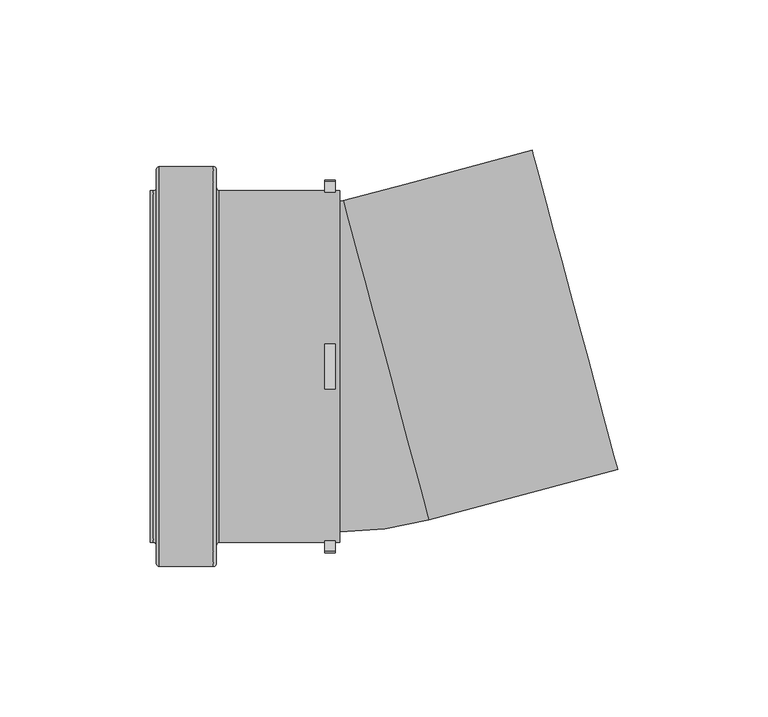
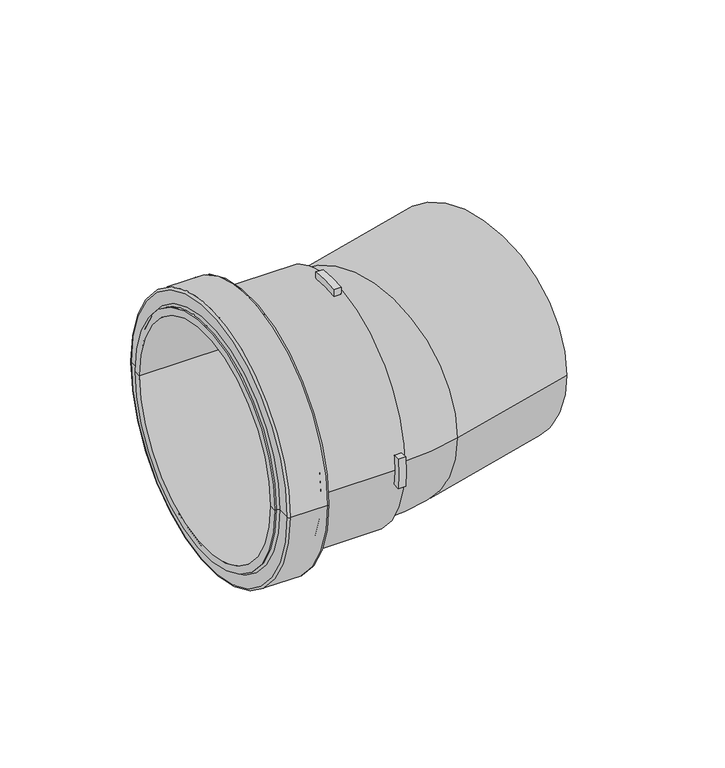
"""IFC4 building model written with IfcOpenShell, lengths in millimetres: pipe fitting geometry, MarleyPlumbingAndDrainage_PipeFitting_dBlue15DegreeBend_VKL : VKL-110-000-15D - 110mm - Blue."""

from ifc_helpers import new_model, si_unit, point, frame, origin, place, context, project, spatial, polyline, circle_curve, ellipse_curve, trimmed, source, transform, mapped, element, save
from ifc_brep_helpers import plane_surface, cylinder_surface, revolved_surface, advanced_brep


def pipe_fitting_c5ec87fd(model_context):
    return source(origin(), model_context, "Body", "AdvancedBrep", [
        advanced_brep(
        [(-64.6001117, 66.5, 0.0), (-64.6001117, -66.5, 0.0), (-63.6001117, -65.5, 0.0), (-63.6001117, 65.5, 0.0), (-82.6001117, 66.5, 0.0), (-82.6001117, -66.5, 0.0), (-83.6001117, 65.5, 0.0), (-83.6001117, -65.5, 0.0), (-83.6001117, 59.5, 0.0), (-83.6001117, -59.5, 0.0), (-84.6001117, 58.5, 0.0), (-84.6001117, -58.5, 0.0), (-85.6001117, 55.0, 0.0), (-85.6001117, -55.0, 0.0), (-85.6001117, -58.5, 0.0), (-85.6001117, 58.5, 0.0), (-22.6001117, 55.0, 0.0), (-22.6001117, -55.0, 0.0), (-22.6001117, 58.5, 0.0), (-22.6001117, -58.5, 0.0), (-24.1001117, 58.5, 0.0), (-24.1001117, 58.0172388, 7.5), (-27.6001117, 58.0172388, 7.5), (-27.6001117, 58.5, 0.0), (-62.6001117, 58.5, 0.0), (-62.6001117, -58.5, 0.0), (-27.6001117, -58.5, 0.0), (-27.6001117, -58.0172388, 7.5), (-24.1001117, -58.0172388, 7.5), (-24.1001117, -58.5, 0.0), (-27.6001117, -7.5, 58.0172388), (-27.6001117, 7.5, 58.0172388), (-24.1001117, 7.5, 58.0172388), (-24.1001117, -7.5, 58.0172388), (-24.1001117, -58.0172388, -7.5), (-27.6001117, -58.0172388, -7.5), (-27.6001117, 58.0172388, -7.5), (-24.1001117, 58.0172388, -7.5), (-27.6001117, 7.5, -58.0172388), (-27.6001117, -7.5, -58.0172388), (-24.1001117, -7.5, -58.0172388), (-24.1001117, 7.5, -58.0172388), (-63.6001117, 59.5, 0.0), (-63.6001117, -59.5, 0.0), (-27.6001117, 61.5446992, 7.5), (-27.6001117, 61.5446992, -7.5), (-27.6001117, -7.5, 61.5446992), (-27.6001117, 7.5, 61.5446992), (-27.6001117, -61.5446992, -7.5), (-27.6001117, -61.5446992, 7.5), (-27.6001117, 7.5, -61.5446992), (-27.6001117, -7.5, -61.5446992), (-24.1001117, 61.5446992, -7.5), (-24.1001117, 61.5446992, 7.5), (-24.1001117, 7.5, 61.5446992), (-24.1001117, -7.5, 61.5446992), (-24.1001117, -61.5446992, 7.5), (-24.1001117, -61.5446992, -7.5), (-24.1001117, -7.5, -61.5446992), (-24.1001117, 7.5, -61.5446992)],
        [
            (0, 1, circle_curve(frame((-64.6001117, 0.0, 0.0), z_axis=(1.0, 0.0, 0.0), x_axis=(0.0, -1.0, 0.0)), 66.5)),
            (1, 2, circle_curve(frame((-64.6001117, -65.5, 0.0), z_axis=(0.0, 0.0, 1.0), x_axis=(0.0, -1.0, 0.0)), 1.0)),
            (2, 3, circle_curve(frame((-63.6001117, 0.0, 0.0), z_axis=(-1.0, 0.0, 0.0), x_axis=(0.0, -1.0, 0.0)), 65.5)),
            (3, 0, circle_curve(frame((-64.6001117, 65.5, 0.0), z_axis=(0.0, 0.0, 1.0), x_axis=(0.0, 1.0, 0.0)), 1.0)),
            (1, 0, circle_curve(frame((-64.6001117, 0.0, 0.0), z_axis=(1.0, 0.0, 0.0), x_axis=(0.0, -1.0, 0.0)), 66.5)),
            (3, 2, circle_curve(frame((-63.6001117, 0.0, 0.0), z_axis=(-1.0, 0.0, 0.0), x_axis=(0.0, -1.0, 0.0)), 65.5)),
            (0, 4),
            (4, 5, circle_curve(frame((-82.6001117, 0.0, 0.0), z_axis=(1.0, 0.0, 0.0), x_axis=(0.0, -1.0, 0.0)), 66.5)),
            (5, 1),
            (5, 4, circle_curve(frame((-82.6001117, 0.0, 0.0), z_axis=(1.0, 0.0, 0.0), x_axis=(0.0, -1.0, 0.0)), 66.5)),
            (4, 6, circle_curve(frame((-82.6001117, 65.5, 0.0), z_axis=(0.0, 0.0, 1.0), x_axis=(0.0, 1.0, 0.0)), 1.0)),
            (6, 7, circle_curve(frame((-83.6001117, 0.0, 0.0), z_axis=(1.0, 0.0, 0.0), x_axis=(0.0, -1.0, 0.0)), 65.5)),
            (7, 5, circle_curve(frame((-82.6001117, -65.5, 0.0), z_axis=(0.0, 0.0, 1.0), x_axis=(0.0, -1.0, 0.0)), 1.0)),
            (7, 6, circle_curve(frame((-83.6001117, 0.0, 0.0), z_axis=(1.0, 0.0, 0.0), x_axis=(0.0, -1.0, 0.0)), 65.5)),
            (6, 8),
            (8, 9, circle_curve(frame((-83.6001117, 0.0, 0.0), z_axis=(1.0, 0.0, 0.0), x_axis=(0.0, -1.0, 0.0)), 59.5)),
            (9, 7),
            (9, 8, circle_curve(frame((-83.6001117, 0.0, 0.0), z_axis=(1.0, 0.0, 0.0), x_axis=(0.0, -1.0, 0.0)), 59.5)),
            (8, 10, circle_curve(frame((-84.6001117, 59.5, 0.0), z_axis=(0.0, 0.0, -1.0), x_axis=(0.0, 1.0, 0.0)), 1.0)),
            (10, 11, circle_curve(frame((-84.6001117, 0.0, 0.0), z_axis=(1.0, 0.0, 0.0), x_axis=(0.0, -1.0, 0.0)), 58.5)),
            (11, 9, circle_curve(frame((-84.6001117, -59.5, 0.0), z_axis=(0.0, 0.0, -1.0), x_axis=(0.0, -1.0, 0.0)), 1.0)),
            (11, 10, circle_curve(frame((-84.6001117, 0.0, 0.0), z_axis=(1.0, 0.0, 0.0), x_axis=(0.0, -1.0, 0.0)), 58.5)),
            (12, 13, circle_curve(frame((-85.6001117, 0.0, 0.0), z_axis=(1.0, 0.0, 0.0), x_axis=(0.0, -1.0, 0.0)), 55.0)),
            (13, 14),
            (14, 15, circle_curve(frame((-85.6001117, 0.0, 0.0), z_axis=(-1.0, 0.0, 0.0), x_axis=(0.0, -1.0, 0.0)), 58.5)),
            (15, 12),
            (13, 12, circle_curve(frame((-85.6001117, 0.0, 0.0), z_axis=(1.0, 0.0, 0.0), x_axis=(0.0, -1.0, 0.0)), 55.0)),
            (15, 14, circle_curve(frame((-85.6001117, 0.0, 0.0), z_axis=(-1.0, 0.0, 0.0), x_axis=(0.0, -1.0, 0.0)), 58.5)),
            (12, 16),
            (16, 17, circle_curve(frame((-22.6001117, 0.0, 0.0), z_axis=(1.0, 0.0, 0.0), x_axis=(0.0, -1.0, 0.0)), 55.0)),
            (17, 13),
            (17, 16, circle_curve(frame((-22.6001117, 0.0, 0.0), z_axis=(1.0, 0.0, 0.0), x_axis=(0.0, -1.0, 0.0)), 55.0)),
            (16, 18),
            (18, 19, circle_curve(frame((-22.6001117, 0.0, 0.0), z_axis=(1.0, 0.0, 0.0), x_axis=(0.0, -1.0, 0.0)), 58.5)),
            (19, 17),
            (19, 18, circle_curve(frame((-22.6001117, 0.0, 0.0), z_axis=(1.0, 0.0, 0.0), x_axis=(0.0, -1.0, 0.0)), 58.5)),
            (18, 20),
            (20, 21, circle_curve(frame((-24.1001117, 0.0, 0.0), z_axis=(1.0, 0.0, 0.0), x_axis=(0.0, -1.0, 0.0)), 58.5)),
            (21, 22),
            (22, 23, circle_curve(frame((-27.6001117, 0.0, 0.0), z_axis=(-1.0, 0.0, 0.0), x_axis=(0.0, -1.0, 0.0)), 58.5)),
            (23, 24),
            (24, 25, circle_curve(frame((-62.6001117, 0.0, 0.0), z_axis=(1.0, 0.0, 0.0), x_axis=(0.0, -1.0, 0.0)), 58.5)),
            (25, 26),
            (26, 27, circle_curve(frame((-27.6001117, 0.0, 0.0), z_axis=(-1.0, 0.0, 0.0), x_axis=(0.0, -1.0, 0.0)), 58.5)),
            (27, 28),
            (28, 29, circle_curve(frame((-24.1001117, 0.0, 0.0), z_axis=(1.0, 0.0, 0.0), x_axis=(0.0, -1.0, 0.0)), 58.5)),
            (29, 19),
            (30, 31, circle_curve(frame((-27.6001117, 0.0, 0.0), z_axis=(-1.0, 0.0, 0.0), x_axis=(0.0, -1.0, 0.0)), 58.5)),
            (31, 32),
            (32, 33, circle_curve(frame((-24.1001117, 0.0, 0.0), z_axis=(1.0, 0.0, 0.0), x_axis=(0.0, -1.0, 0.0)), 58.5)),
            (33, 30),
            (29, 34, circle_curve(frame((-24.1001117, 0.0, 0.0), z_axis=(1.0, 0.0, 0.0), x_axis=(0.0, -1.0, 0.0)), 58.5)),
            (34, 35),
            (35, 26, circle_curve(frame((-27.6001117, 0.0, 0.0), z_axis=(-1.0, 0.0, 0.0), x_axis=(0.0, -1.0, 0.0)), 58.5)),
            (25, 24, circle_curve(frame((-62.6001117, 0.0, 0.0), z_axis=(1.0, 0.0, 0.0), x_axis=(0.0, -1.0, 0.0)), 58.5)),
            (23, 36, circle_curve(frame((-27.6001117, 0.0, 0.0), z_axis=(-1.0, 0.0, 0.0), x_axis=(0.0, -1.0, 0.0)), 58.5)),
            (36, 37),
            (37, 20, circle_curve(frame((-24.1001117, 0.0, 0.0), z_axis=(1.0, 0.0, 0.0), x_axis=(0.0, -1.0, 0.0)), 58.5)),
            (38, 39, circle_curve(frame((-27.6001117, 0.0, 0.0), z_axis=(-1.0, 0.0, 0.0), x_axis=(0.0, -1.0, 0.0)), 58.5)),
            (39, 40),
            (40, 41, circle_curve(frame((-24.1001117, 0.0, 0.0), z_axis=(1.0, 0.0, 0.0), x_axis=(0.0, -1.0, 0.0)), 58.5)),
            (41, 38),
            (24, 42, circle_curve(frame((-62.6001117, 59.5, 0.0), z_axis=(0.0, 0.0, -1.0), x_axis=(0.0, 1.0, 0.0)), 1.0)),
            (42, 43, circle_curve(frame((-63.6001117, 0.0, 0.0), z_axis=(1.0, 0.0, 0.0), x_axis=(0.0, -1.0, 0.0)), 59.5)),
            (43, 25, circle_curve(frame((-62.6001117, -59.5, 0.0), z_axis=(0.0, 0.0, -1.0), x_axis=(0.0, -1.0, 0.0)), 1.0)),
            (43, 42, circle_curve(frame((-63.6001117, 0.0, 0.0), z_axis=(1.0, 0.0, 0.0), x_axis=(0.0, -1.0, 0.0)), 59.5)),
            (2, 43),
            (42, 3),
            (10, 15),
            (14, 11),
            (22, 44),
            (44, 45, circle_curve(frame((-27.6001117, 0.0, 0.0), z_axis=(-1.0, 0.0, 0.0), x_axis=(0.0, -1.0, 0.0)), 62.0)),
            (45, 36),
            (30, 46),
            (46, 47, circle_curve(frame((-27.6001117, 0.0, 0.0), z_axis=(-1.0, 0.0, 0.0), x_axis=(0.0, -1.0, 0.0)), 62.0)),
            (47, 31),
            (35, 48),
            (48, 49, circle_curve(frame((-27.6001117, 0.0, 0.0), z_axis=(-1.0, 0.0, 0.0), x_axis=(0.0, -1.0, 0.0)), 62.0)),
            (49, 27),
            (38, 50),
            (50, 51, circle_curve(frame((-27.6001117, 0.0, 0.0), z_axis=(-1.0, 0.0, 0.0), x_axis=(0.0, -1.0, 0.0)), 62.0)),
            (51, 39),
            (37, 52),
            (52, 53, circle_curve(frame((-24.1001117, 0.0, 0.0), z_axis=(1.0, 0.0, 0.0), x_axis=(0.0, -1.0, 0.0)), 62.0)),
            (53, 21),
            (32, 54),
            (54, 55, circle_curve(frame((-24.1001117, 0.0, 0.0), z_axis=(1.0, 0.0, 0.0), x_axis=(0.0, -1.0, 0.0)), 62.0)),
            (55, 33),
            (28, 56),
            (56, 57, circle_curve(frame((-24.1001117, 0.0, 0.0), z_axis=(1.0, 0.0, 0.0), x_axis=(0.0, -1.0, 0.0)), 62.0)),
            (57, 34),
            (40, 58),
            (58, 59, circle_curve(frame((-24.1001117, 0.0, 0.0), z_axis=(1.0, 0.0, 0.0), x_axis=(0.0, -1.0, 0.0)), 62.0)),
            (59, 41),
            (53, 44),
            (52, 45),
            (55, 46),
            (54, 47),
            (57, 48),
            (56, 49),
            (59, 50),
            (58, 51),
        ],
        [
            revolved_surface(trimmed(ellipse_curve(frame((-64.6001117, -65.5, 0.0), z_axis=(0.0, 0.0, -1.0), x_axis=(0.0, -1.0, 0.0)), 1.0, 1.0), [point((-63.6001117, -65.5, 0.0))], [point((-64.6001117, -66.5, 0.0))], True, "CARTESIAN"), (-140.6001117, 0.0, 0.0), (-1.0, 0.0, 0.0)),
            cylinder_surface(frame((-140.6001117, 0.0, 0.0), z_axis=(-1.0, 0.0, 0.0), x_axis=(0.0, -1.0, 0.0)), 66.5),
            revolved_surface(trimmed(ellipse_curve(frame((-82.6001117, -65.5, 0.0), z_axis=(0.0, 0.0, -1.0), x_axis=(0.0, -1.0, 0.0)), 1.0, 1.0), [point((-82.6001117, -66.5, 0.0))], [point((-83.6001117, -65.5, 0.0))], True, "CARTESIAN"), (-140.6001117, 0.0, 0.0), (-1.0, 0.0, 0.0)),
            plane_surface(frame((-83.6001117, 0.0, 0.0), z_axis=(-1.0, 0.0, 0.0), x_axis=(0.0, -1.0, 0.0))),
            revolved_surface(trimmed(ellipse_curve(frame((-84.6001117, -59.5, 0.0), z_axis=(0.0, 0.0, 1.0), x_axis=(0.0, -1.0, 0.0)), 1.0, 1.0), [point((-83.6001117, -59.5, 0.0))], [point((-84.6001117, -58.5, 0.0))], True, "CARTESIAN"), (-140.6001117, 0.0, 0.0), (-1.0, 0.0, 0.0)),
            plane_surface(frame((-85.6001117, 0.0, 0.0), z_axis=(-1.0, 0.0, 0.0), x_axis=(0.0, -1.0, 0.0))),
            revolved_surface(polyline([(-85.6001117, -55.0, 0.0), (-22.6001117, -55.0, 0.0)]), (-140.6001117, 0.0, 0.0), (-1.0, 0.0, 0.0)),
            plane_surface(frame((-22.6001117, 0.0, 0.0), z_axis=(1.0, 0.0, 0.0), x_axis=(0.0, -1.0, 0.0))),
            cylinder_surface(frame((-140.6001117, 0.0, 0.0), z_axis=(-1.0, 0.0, 0.0), x_axis=(0.0, -1.0, 0.0)), 58.5),
            revolved_surface(trimmed(ellipse_curve(frame((-62.6001117, -59.5, 0.0), z_axis=(0.0, 0.0, 1.0), x_axis=(0.0, -1.0, 0.0)), 1.0, 1.0), [point((-62.6001117, -58.5, 0.0))], [point((-63.6001117, -59.5, 0.0))], True, "CARTESIAN"), (-140.6001117, 0.0, 0.0), (-1.0, 0.0, 0.0)),
            plane_surface(frame((-63.6001117, 0.0, 0.0), z_axis=(1.0, 0.0, 0.0), x_axis=(0.0, -1.0, 0.0))),
            plane_surface(frame((-27.6001117, -58.5, 0.0), z_axis=(-1.0, 0.0, 0.0), x_axis=(0.0, 0.0, -1.0))),
            plane_surface(frame((-24.1001117, -58.5, 0.0), z_axis=(1.0, 0.0, 0.0), x_axis=(0.0, 0.0, 1.0))),
            plane_surface(frame((-27.6001117, 58.0172388, 7.5), z_axis=(0.0, 0.0, 1.0), x_axis=(1.0, 0.0, 0.0))),
            cylinder_surface(frame((-24.1001117, 0.0, 0.0), z_axis=(-1.0, 0.0, 0.0), x_axis=(0.0, -1.0, 0.0)), 62.0),
            plane_surface(frame((-27.6001117, 61.5446992, -7.5), z_axis=(0.0, 0.0, -1.0), x_axis=(1.0, 0.0, 0.0))),
            plane_surface(frame((-27.6001117, -7.5, 58.0172388), z_axis=(0.0, -1.0, 0.0), x_axis=(1.0, 0.0, 0.0))),
            cylinder_surface(frame((-22.6001117, 0.0, 0.0), z_axis=(-1.0, 0.0, 0.0), x_axis=(0.0, -1.0, 0.0)), 62.0),
            plane_surface(frame((-27.6001117, 7.5, 61.5446992), z_axis=(0.0, 1.0, 0.0), x_axis=(1.0, 0.0, 0.0))),
            plane_surface(frame((-27.6001117, -58.0172388, -7.5), z_axis=(0.0, 0.0, -1.0), x_axis=(1.0, 0.0, 0.0))),
            plane_surface(frame((-27.6001117, -61.5446992, 7.5), z_axis=(0.0, 0.0, 1.0), x_axis=(1.0, 0.0, 0.0))),
            plane_surface(frame((-27.6001117, 7.5, -58.0172388), z_axis=(0.0, 1.0, 0.0), x_axis=(1.0, 0.0, 0.0))),
            plane_surface(frame((-27.6001117, -7.5, -61.5446992), z_axis=(0.0, -1.0, 0.0), x_axis=(1.0, 0.0, 0.0))),
        ],
        [
            (0, [[1, 2, 3, 4]]),
            (0, [[-2, 5, -4, 6]]),
            (1, [[-1, 7, 8, 9]]),
            (1, [[-5, -9, 10, -7]]),
            (2, [[-8, 11, 12, 13]]),
            (2, [[-10, -13, 14, -11]]),
            (3, [[-12, 15, 16, 17]]),
            (3, [[-14, -17, 18, -15]]),
            (4, [[-16, 19, 20, 21]]),
            (4, [[-18, -21, 22, -19]]),
            (5, [[23, 24, 25, 26]]),
            (5, [[-24, 27, -26, 28]]),
            (6, [[-23, 29, 30, 31]]),
            (6, [[-27, -31, 32, -29]]),
            (7, [[-30, 33, 34, 35]]),
            (7, [[-32, -35, 36, -33]]),
            (8, [[-34, 37, 38, 39, 40, 41, 42, 43, 44, 45, 46, 47], [48, 49, 50, 51]]),
            (8, [[-36, -47, 52, 53, 54, -43, 55, -41, 56, 57, 58, -37], [59, 60, 61, 62]]),
            (9, [[-42, 63, 64, 65]]),
            (9, [[-55, -65, 66, -63]]),
            (10, [[-3, 67, -64, 68]]),
            (10, [[-6, -68, -66, -67]]),
            (8, [[-20, 69, -25, 70]]),
            (8, [[-22, -70, -28, -69]]),
            (11, [[71, 72, 73, -56, -40]]),
            (11, [[74, 75, 76, -48]]),
            (11, [[77, 78, 79, -44, -54]]),
            (11, [[80, 81, 82, -59]]),
            (12, [[83, 84, 85, -38, -58]]),
            (12, [[86, 87, 88, -50]]),
            (12, [[89, 90, 91, -52, -46]]),
            (12, [[92, 93, 94, -61]]),
            (13, [[-71, -39, -85, 95]]),
            (14, [[-72, -95, -84, 96]]),
            (15, [[-73, -96, -83, -57]]),
            (16, [[-74, -51, -88, 97]]),
            (17, [[-75, -97, -87, 98]]),
            (18, [[-76, -98, -86, -49]]),
            (19, [[-77, -53, -91, 99]]),
            (17, [[-78, -99, -90, 100]]),
            (20, [[-79, -100, -89, -45]]),
            (21, [[-80, -62, -94, 101]]),
            (17, [[-81, -101, -93, 102]]),
            (22, [[-82, -102, -92, -60]]),
        ],
    ),
        advanced_brep(
        [(-22.6001117, -55.0, 0.0), (-22.6001117, 55.0, 0.0), (-21.435426, 55.1533338, 0.0), (7.034669, -51.0985071, 0.0), (69.8198477, -34.2752692, 0.0), (41.3497527, 71.9765717, 0.0)],
        [
            (0, 1, circle_curve(frame((-22.6001117, 0.0, 0.0), z_axis=(-1.0, 0.0, 0.0), x_axis=(0.0, 1.0, 0.0)), 55.0)),
            (1, 0, circle_curve(frame((-22.6001117, 0.0, 0.0), z_axis=(-1.0, 0.0, 0.0), x_axis=(0.0, 1.0, 0.0)), 55.0)),
            (2, 1, circle_curve(frame((-22.6001117, 59.5, 0.0), z_axis=(0.0, 0.0, -1.0), x_axis=(0.0, -1.0, 0.0)), 4.5)),
            (0, 3, circle_curve(frame((-22.6001117, 59.5, 0.0), z_axis=(0.0, 0.0, 1.0), x_axis=(0.0, -1.0, 0.0)), 114.5)),
            (3, 2, circle_curve(frame((-7.2003785, 2.0274133, 0.0), z_axis=(-0.9659258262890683, -0.2588190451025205, 0.0), x_axis=(-0.2588190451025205, 0.9659258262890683, 0.0)), 55.0)),
            (2, 3, circle_curve(frame((-7.2003785, 2.0274133, 0.0), z_axis=(-0.9659258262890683, -0.2588190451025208, 0.0), x_axis=(-0.2588190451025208, 0.9659258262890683, 0.0)), 55.0)),
            (4, 5, circle_curve(frame((55.5848002, 18.8506513, 0.0), z_axis=(0.9659258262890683, 0.2588190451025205, 0.0), x_axis=(-0.2588190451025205, 0.9659258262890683, 0.0)), 55.0)),
            (5, 4, circle_curve(frame((55.5848002, 18.8506513, 0.0), z_axis=(0.9659258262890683, 0.2588190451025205, 0.0), x_axis=(-0.2588190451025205, 0.9659258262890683, 0.0)), 55.0)),
            (3, 4),
            (5, 2),
        ],
        [
            plane_surface(frame((-22.6001117, 0.0, 0.0), z_axis=(-1.0, 0.0, 0.0), x_axis=(0.0, 0.0, 1.0))),
            revolved_surface(trimmed(ellipse_curve(frame((-22.6001117, 0.0, 0.0), z_axis=(-1.0, 0.0, 0.0), x_axis=(0.0, 1.0, 0.0)), 55.0, 55.0), [point((-22.6001117, -55.0, 0.0))], [point((-22.6001117, 55.0, 0.0))], True, "CARTESIAN"), (-22.6001117, 59.5, 0.0), (0.0, 0.0, 1.0)),
            revolved_surface(trimmed(ellipse_curve(frame((-22.6001117, 0.0, 0.0), z_axis=(-1.0, 0.0, 0.0), x_axis=(0.0, 1.0, 0.0)), 55.0, 55.0), [point((-22.6001117, 55.0, 0.0))], [point((-22.6001117, -55.0, 0.0))], True, "CARTESIAN"), (-22.6001117, 59.5, 0.0), (0.0, 0.0, 1.0)),
            plane_surface(frame((55.5848002, 18.8506513, 0.0), z_axis=(0.9659258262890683, 0.2588190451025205, 0.0), x_axis=(0.0, 0.0, 1.0))),
            cylinder_surface(frame((-7.2003785, 2.0274133, 0.0), z_axis=(-0.9659258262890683, -0.2588190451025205, 0.0), x_axis=(-0.2588190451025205, 0.9659258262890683, 0.0)), 55.0),
        ],
        [
            (0, [[1, 2]]),
            (1, [[3, -1, 4, 5]]),
            (2, [[-4, -2, -3, 6]]),
            (3, [[7, 8]]),
            (4, [[-5, 9, -8, 10]]),
            (4, [[-6, -10, -7, -9]]),
        ],
    ),
    ])


if __name__ == "__main__":
    model = new_model("IFC4")
    model_context = context("Model", 3, world=origin())
    ifc_project = project(units=[si_unit("LENGTHUNIT", "METRE", prefix="MILLI")], contexts=[model_context])
    site = spatial("IfcSite", under=ifc_project)
    building = spatial("IfcBuilding", under=site)
    placement = place(None, origin())
    pipe_fitting_shape = pipe_fitting_c5ec87fd(model_context)
    element("IfcPipeFitting", 1, ObjectType="MarleyPlumbingAndDrainage_PipeFitting_dBlue15DegreeBend_VKL : VKL-110-000-15D - 110mm - Blue", at=placement, inside=building, context=model_context, shape_type="MappedRepresentation", body=[
        mapped(pipe_fitting_shape, transform((0.0, 0.0, 0.0), x_axis=(1.0, 0.0, 0.0), y_axis=(0.0, 1.0, 0.0), z_axis=(0.0, 0.0, 1.0))),
    ])
    save(model, "model.ifc")
